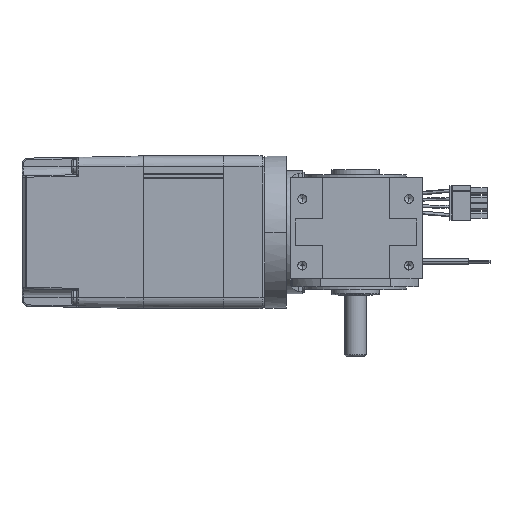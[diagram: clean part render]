
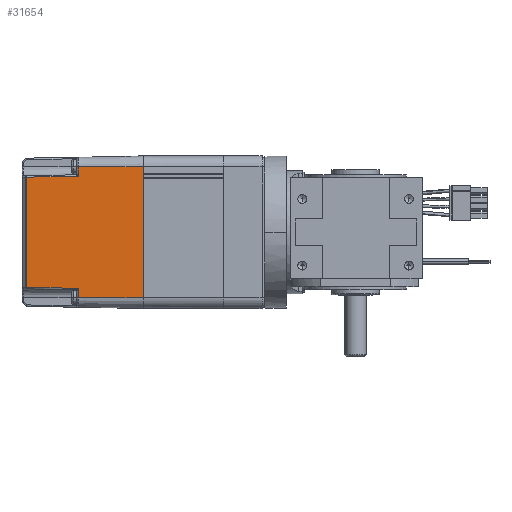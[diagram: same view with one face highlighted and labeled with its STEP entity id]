
A CAD part, front view. The second image highlights one B-rep face of the part: STEP entity #31654.
In plain terms, the highlighted planar face has unit normal (-0.018, -1, 0) as drawn and (0, 0.017, -1) by its records, which use the part's own axes.
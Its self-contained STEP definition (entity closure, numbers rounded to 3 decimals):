
#126 = DIRECTION ( 'NONE',  ( 0., 1., 0.017 ) ) ;
#461 = DIRECTION ( 'NONE',  ( 0., -1., -0.017 ) ) ;
#602 = VECTOR ( 'NONE', #39135, 1000. ) ;
#1983 = VERTEX_POINT ( 'NONE', #47292 ) ;
#4639 = CARTESIAN_POINT ( 'NONE',  ( -20.67, 89.197, -27.787 ) ) ;
#6014 = CARTESIAN_POINT ( 'NONE',  ( 24.5, 69.81, -28.126 ) ) ;
#6609 = CARTESIAN_POINT ( 'NONE',  ( -24.5, 69.81, -28.126 ) ) ;
#8294 = LINE ( 'NONE', #20848, #46464 ) ;
#9480 = EDGE_CURVE ( 'NONE', #1983, #26148, #16951, .T. ) ;
#10053 = CARTESIAN_POINT ( 'NONE',  ( 20.67, 89.197, -27.787 ) ) ;
#10910 = VERTEX_POINT ( 'NONE', #6609 ) ;
#11120 = CARTESIAN_POINT ( 'NONE',  ( -24.5, 45.501, -28.55 ) ) ;
#13137 = EDGE_CURVE ( 'NONE', #1983, #21289, #48768, .T. ) ;
#13867 = ORIENTED_EDGE ( 'NONE', *, *, #9480, .T. ) ;
#16951 = LINE ( 'NONE', #33616, #21714 ) ;
#18104 = LINE ( 'NONE', #30647, #30626 ) ;
#20207 = ORIENTED_EDGE ( 'NONE', *, *, #43568, .T. ) ;
#20378 = VECTOR ( 'NONE', #461, 1000. ) ;
#20848 = CARTESIAN_POINT ( 'NONE',  ( 30.61, 45.5, -28.55 ) ) ;
#21229 = CARTESIAN_POINT ( 'NONE',  ( 24.5, 45.501, -28.55 ) ) ;
#21289 = VERTEX_POINT ( 'NONE', #10053 ) ;
#21445 = PLANE ( 'NONE',  #35757 ) ;
#21714 = VECTOR ( 'NONE', #50235, 1000. ) ;
#22223 = DIRECTION ( 'NONE',  ( -1., 0., 0. ) ) ;
#22492 = ORIENTED_EDGE ( 'NONE', *, *, #29888, .T. ) ;
#23274 = ORIENTED_EDGE ( 'NONE', *, *, #34387, .F. ) ;
#23983 = LINE ( 'NONE', #21229, #20378 ) ;
#24026 = ORIENTED_EDGE ( 'NONE', *, *, #48846, .T. ) ;
#24041 = CARTESIAN_POINT ( 'NONE',  ( -24.5, 45.5, -28.55 ) ) ;
#24225 = CARTESIAN_POINT ( 'NONE',  ( -21.008, 69.81, -28.126 ) ) ;
#25252 = DIRECTION ( 'NONE',  ( 0., 0.017, -1. ) ) ;
#26006 = CARTESIAN_POINT ( 'NONE',  ( -21.371, 89.197, -27.787 ) ) ;
#26148 = VERTEX_POINT ( 'NONE', #6014 ) ;
#26285 = VECTOR ( 'NONE', #27788, 1000. ) ;
#27788 = DIRECTION ( 'NONE',  ( 0., 1., 0.017 ) ) ;
#27981 = ORIENTED_EDGE ( 'NONE', *, *, #42254, .F. ) ;
#29888 = EDGE_CURVE ( 'NONE', #26148, #32731, #23983, .T. ) ;
#30626 = VECTOR ( 'NONE', #34480, 1000. ) ;
#30647 = CARTESIAN_POINT ( 'NONE',  ( -21.437, 45.245, -28.554 ) ) ;
#31654 = ADVANCED_FACE ( 'NONE', ( #37555 ), #21445, .T. ) ;
#31900 = LINE ( 'NONE', #11120, #26285 ) ;
#32731 = VERTEX_POINT ( 'NONE', #41756 ) ;
#32952 = EDGE_LOOP ( 'NONE', ( #23274, #27981, #39646, #13867, #22492, #24026, #42632, #20207 ) ) ;
#33427 = DIRECTION ( 'NONE',  ( -1., 0., 0. ) ) ;
#33616 = CARTESIAN_POINT ( 'NONE',  ( 30.61, 69.81, -28.126 ) ) ;
#34387 = EDGE_CURVE ( 'NONE', #42681, #49428, #18104, .T. ) ;
#34480 = DIRECTION ( 'NONE',  ( -0.017, -1., -0.017 ) ) ;
#35757 = AXIS2_PLACEMENT_3D ( 'NONE', #46288, #25252, #126 ) ;
#35979 = CARTESIAN_POINT ( 'NONE',  ( 20.637, 91.104, -27.754 ) ) ;
#37555 = FACE_OUTER_BOUND ( 'NONE', #32952, .T. ) ;
#38039 = LINE ( 'NONE', #26006, #49330 ) ;
#38318 = CARTESIAN_POINT ( 'NONE',  ( 30.61, 69.81, -28.126 ) ) ;
#39135 = DIRECTION ( 'NONE',  ( 1., 0., 0. ) ) ;
#39646 = ORIENTED_EDGE ( 'NONE', *, *, #13137, .F. ) ;
#40343 = VERTEX_POINT ( 'NONE', #24041 ) ;
#41691 = VECTOR ( 'NONE', #48509, 1000. ) ;
#41756 = CARTESIAN_POINT ( 'NONE',  ( 24.5, 45.5, -28.55 ) ) ;
#42254 = EDGE_CURVE ( 'NONE', #21289, #42681, #38039, .T. ) ;
#42407 = LINE ( 'NONE', #38318, #602 ) ;
#42632 = ORIENTED_EDGE ( 'NONE', *, *, #47296, .T. ) ;
#42681 = VERTEX_POINT ( 'NONE', #4639 ) ;
#43568 = EDGE_CURVE ( 'NONE', #10910, #49428, #42407, .T. ) ;
#46288 = CARTESIAN_POINT ( 'NONE',  ( 30.61, 45.501, -28.55 ) ) ;
#46464 = VECTOR ( 'NONE', #33427, 1000. ) ;
#47292 = CARTESIAN_POINT ( 'NONE',  ( 21.008, 69.81, -28.126 ) ) ;
#47296 = EDGE_CURVE ( 'NONE', #40343, #10910, #31900, .T. ) ;
#48509 = DIRECTION ( 'NONE',  ( -0.017, 1., 0.017 ) ) ;
#48768 = LINE ( 'NONE', #35979, #41691 ) ;
#48846 = EDGE_CURVE ( 'NONE', #32731, #40343, #8294, .T. ) ;
#49330 = VECTOR ( 'NONE', #22223, 1000. ) ;
#49428 = VERTEX_POINT ( 'NONE', #24225 ) ;
#50235 = DIRECTION ( 'NONE',  ( 1., 0., 0. ) ) ;
